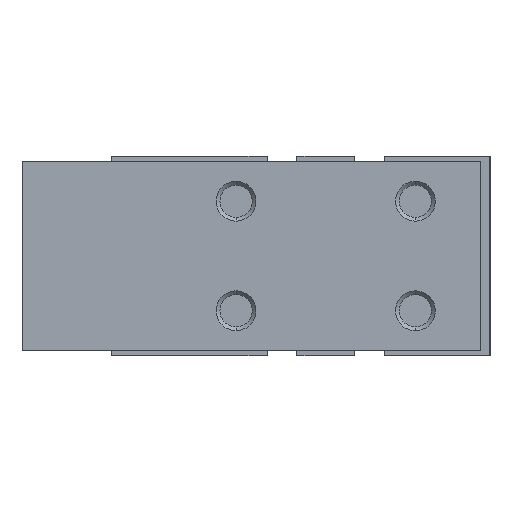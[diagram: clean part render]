
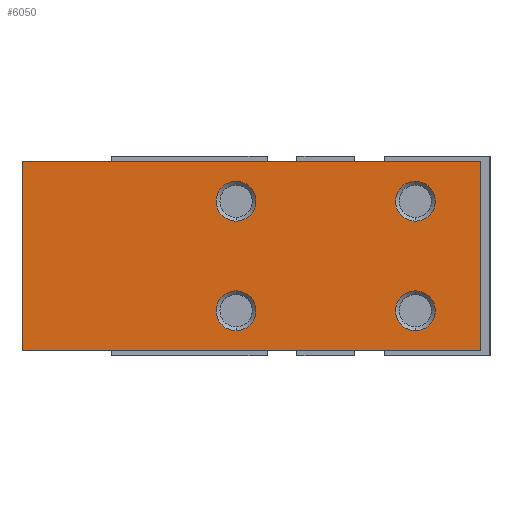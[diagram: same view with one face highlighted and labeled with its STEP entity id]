
A CAD part, left-side view. The second image highlights one B-rep face of the part: STEP entity #6050.
In plain terms, the highlighted planar face has unit normal (-1, 0, 0).
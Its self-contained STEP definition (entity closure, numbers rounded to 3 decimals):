
#63 = ORIENTED_EDGE ( 'NONE', *, *, #3289, .F. ) ;
#157 = LINE ( 'NONE', #5852, #4694 ) ;
#342 = DIRECTION ( 'NONE',  ( 0., 1., 0. ) ) ;
#458 = ORIENTED_EDGE ( 'NONE', *, *, #3309, .T. ) ;
#520 = AXIS2_PLACEMENT_3D ( 'NONE', #4702, #1446, #1320 ) ;
#567 = LINE ( 'NONE', #2479, #4929 ) ;
#707 = CARTESIAN_POINT ( 'NONE',  ( -11.5, -9., -7.5 ) ) ;
#760 = EDGE_LOOP ( 'NONE', ( #2344, #1397 ) ) ;
#846 = FACE_BOUND ( 'NONE', #760, .T. ) ;
#872 = CARTESIAN_POINT ( 'NONE',  ( -11.5, -9., -5.5 ) ) ;
#873 = VERTEX_POINT ( 'NONE', #3340 ) ;
#907 = ORIENTED_EDGE ( 'NONE', *, *, #2384, .F. ) ;
#910 = CIRCLE ( 'NONE', #5001, 2. ) ;
#935 = VERTEX_POINT ( 'NONE', #5333 ) ;
#943 = EDGE_LOOP ( 'NONE', ( #1741, #5286 ) ) ;
#1064 = DIRECTION ( 'NONE',  ( 0., -1., 0. ) ) ;
#1092 = DIRECTION ( 'NONE',  ( -1., 0., 0. ) ) ;
#1109 = DIRECTION ( 'NONE',  ( 0., 0., 1. ) ) ;
#1177 = VERTEX_POINT ( 'NONE', #3821 ) ;
#1212 = FACE_BOUND ( 'NONE', #1713, .T. ) ;
#1279 = FACE_BOUND ( 'NONE', #1590, .T. ) ;
#1309 = AXIS2_PLACEMENT_3D ( 'NONE', #2283, #3138, #342 ) ;
#1315 = DIRECTION ( 'NONE',  ( 0., 0., -1. ) ) ;
#1320 = DIRECTION ( 'NONE',  ( 0., 0., 1. ) ) ;
#1323 = CIRCLE ( 'NONE', #520, 2. ) ;
#1357 = CARTESIAN_POINT ( 'NONE',  ( -11.5, -15.5, 9.5 ) ) ;
#1397 = ORIENTED_EDGE ( 'NONE', *, *, #2212, .F. ) ;
#1446 = DIRECTION ( 'NONE',  ( -1., 0., 0. ) ) ;
#1544 = VERTEX_POINT ( 'NONE', #2583 ) ;
#1590 = EDGE_LOOP ( 'NONE', ( #63, #3193 ) ) ;
#1612 = AXIS2_PLACEMENT_3D ( 'NONE', #3886, #4466, #1974 ) ;
#1656 = DIRECTION ( 'NONE',  ( 0., 0., 1. ) ) ;
#1713 = EDGE_LOOP ( 'NONE', ( #907, #5072 ) ) ;
#1724 = CARTESIAN_POINT ( 'NONE',  ( -11.5, -9., 5.5 ) ) ;
#1741 = ORIENTED_EDGE ( 'NONE', *, *, #1874, .F. ) ;
#1828 = CARTESIAN_POINT ( 'NONE',  ( -11.5, -15.5, -9.5 ) ) ;
#1874 = EDGE_CURVE ( 'NONE', #1177, #6217, #4119, .T. ) ;
#1879 = CARTESIAN_POINT ( 'NONE',  ( -11.5, 9., -7.5 ) ) ;
#1974 = DIRECTION ( 'NONE',  ( 0., 0., 1. ) ) ;
#2212 = EDGE_CURVE ( 'NONE', #2494, #3232, #1323, .T. ) ;
#2283 = CARTESIAN_POINT ( 'NONE',  ( -11.5, 30.5, 9.5 ) ) ;
#2286 = DIRECTION ( 'NONE',  ( 0., 0., 1. ) ) ;
#2341 = EDGE_CURVE ( 'NONE', #5047, #3501, #567, .T. ) ;
#2344 = ORIENTED_EDGE ( 'NONE', *, *, #6058, .F. ) ;
#2353 = CARTESIAN_POINT ( 'NONE',  ( -11.5, -15.5, 9.5 ) ) ;
#2384 = EDGE_CURVE ( 'NONE', #3944, #1544, #6039, .T. ) ;
#2470 = EDGE_CURVE ( 'NONE', #1544, #3944, #4628, .T. ) ;
#2479 = CARTESIAN_POINT ( 'NONE',  ( -11.5, 30.5, -9.5 ) ) ;
#2494 = VERTEX_POINT ( 'NONE', #707 ) ;
#2506 = CIRCLE ( 'NONE', #3905, 2. ) ;
#2519 = VECTOR ( 'NONE', #1315, 1000. ) ;
#2583 = CARTESIAN_POINT ( 'NONE',  ( -11.5, 9., 3.5 ) ) ;
#2660 = CARTESIAN_POINT ( 'NONE',  ( -11.5, 30.5, 9.5 ) ) ;
#2663 = ORIENTED_EDGE ( 'NONE', *, *, #2341, .T. ) ;
#2767 = DIRECTION ( 'NONE',  ( -1., 0., 0. ) ) ;
#3091 = CIRCLE ( 'NONE', #3982, 2. ) ;
#3138 = DIRECTION ( 'NONE',  ( 1., 0., 0. ) ) ;
#3193 = ORIENTED_EDGE ( 'NONE', *, *, #4911, .F. ) ;
#3203 = EDGE_LOOP ( 'NONE', ( #2663, #3912, #3776, #458 ) ) ;
#3204 = LINE ( 'NONE', #2353, #2519 ) ;
#3229 = AXIS2_PLACEMENT_3D ( 'NONE', #3644, #5493, #1109 ) ;
#3232 = VERTEX_POINT ( 'NONE', #4338 ) ;
#3244 = CARTESIAN_POINT ( 'NONE',  ( -11.5, 9., -5.5 ) ) ;
#3289 = EDGE_CURVE ( 'NONE', #935, #5875, #3091, .T. ) ;
#3309 = EDGE_CURVE ( 'NONE', #873, #5047, #157, .T. ) ;
#3332 = CARTESIAN_POINT ( 'NONE',  ( -11.5, 9., 7.5 ) ) ;
#3340 = CARTESIAN_POINT ( 'NONE',  ( -11.5, 30.5, 9.5 ) ) ;
#3342 = AXIS2_PLACEMENT_3D ( 'NONE', #4442, #1092, #4922 ) ;
#3501 = VERTEX_POINT ( 'NONE', #1828 ) ;
#3644 = CARTESIAN_POINT ( 'NONE',  ( -11.5, 9., -5.5 ) ) ;
#3762 = CARTESIAN_POINT ( 'NONE',  ( -11.5, 30.5, -9.5 ) ) ;
#3776 = ORIENTED_EDGE ( 'NONE', *, *, #6085, .F. ) ;
#3819 = AXIS2_PLACEMENT_3D ( 'NONE', #3244, #4669, #2286 ) ;
#3821 = CARTESIAN_POINT ( 'NONE',  ( -11.5, 9., -3.5 ) ) ;
#3886 = CARTESIAN_POINT ( 'NONE',  ( -11.5, 9., 5.5 ) ) ;
#3905 = AXIS2_PLACEMENT_3D ( 'NONE', #1724, #4039, #1656 ) ;
#3912 = ORIENTED_EDGE ( 'NONE', *, *, #5144, .F. ) ;
#3944 = VERTEX_POINT ( 'NONE', #3332 ) ;
#3982 = AXIS2_PLACEMENT_3D ( 'NONE', #4391, #4450, #4897 ) ;
#4039 = DIRECTION ( 'NONE',  ( -1., 0., 0. ) ) ;
#4119 = CIRCLE ( 'NONE', #3229, 2. ) ;
#4191 = DIRECTION ( 'NONE',  ( 0., -1., 0. ) ) ;
#4338 = CARTESIAN_POINT ( 'NONE',  ( -11.5, -9., -3.5 ) ) ;
#4391 = CARTESIAN_POINT ( 'NONE',  ( -11.5, -9., 5.5 ) ) ;
#4442 = CARTESIAN_POINT ( 'NONE',  ( -11.5, 9., 5.5 ) ) ;
#4450 = DIRECTION ( 'NONE',  ( -1., 0., 0. ) ) ;
#4466 = DIRECTION ( 'NONE',  ( -1., 0., 0. ) ) ;
#4508 = DIRECTION ( 'NONE',  ( 0., 0., -1. ) ) ;
#4587 = VERTEX_POINT ( 'NONE', #1357 ) ;
#4628 = CIRCLE ( 'NONE', #3342, 2. ) ;
#4666 = DIRECTION ( 'NONE',  ( 0., 0., 1. ) ) ;
#4669 = DIRECTION ( 'NONE',  ( -1., 0., 0. ) ) ;
#4694 = VECTOR ( 'NONE', #4508, 1000. ) ;
#4702 = CARTESIAN_POINT ( 'NONE',  ( -11.5, -9., -5.5 ) ) ;
#4815 = CIRCLE ( 'NONE', #3819, 2. ) ;
#4897 = DIRECTION ( 'NONE',  ( 0., 0., 1. ) ) ;
#4911 = EDGE_CURVE ( 'NONE', #5875, #935, #2506, .T. ) ;
#4922 = DIRECTION ( 'NONE',  ( 0., 0., 1. ) ) ;
#4929 = VECTOR ( 'NONE', #1064, 1000. ) ;
#5001 = AXIS2_PLACEMENT_3D ( 'NONE', #872, #2767, #4666 ) ;
#5047 = VERTEX_POINT ( 'NONE', #3762 ) ;
#5070 = FACE_OUTER_BOUND ( 'NONE', #3203, .T. ) ;
#5072 = ORIENTED_EDGE ( 'NONE', *, *, #2470, .F. ) ;
#5104 = FACE_BOUND ( 'NONE', #943, .T. ) ;
#5144 = EDGE_CURVE ( 'NONE', #4587, #3501, #3204, .T. ) ;
#5152 = EDGE_CURVE ( 'NONE', #6217, #1177, #4815, .T. ) ;
#5286 = ORIENTED_EDGE ( 'NONE', *, *, #5152, .F. ) ;
#5333 = CARTESIAN_POINT ( 'NONE',  ( -11.5, -9., 7.5 ) ) ;
#5493 = DIRECTION ( 'NONE',  ( -1., 0., 0. ) ) ;
#5852 = CARTESIAN_POINT ( 'NONE',  ( -11.5, 30.5, 9.5 ) ) ;
#5875 = VERTEX_POINT ( 'NONE', #6197 ) ;
#5984 = PLANE ( 'NONE',  #1309 ) ;
#6019 = LINE ( 'NONE', #2660, #6126 ) ;
#6039 = CIRCLE ( 'NONE', #1612, 2. ) ;
#6050 = ADVANCED_FACE ( 'NONE', ( #5070, #5104, #1279, #846, #1212 ), #5984, .F. ) ;
#6058 = EDGE_CURVE ( 'NONE', #3232, #2494, #910, .T. ) ;
#6085 = EDGE_CURVE ( 'NONE', #873, #4587, #6019, .T. ) ;
#6126 = VECTOR ( 'NONE', #4191, 1000. ) ;
#6197 = CARTESIAN_POINT ( 'NONE',  ( -11.5, -9., 3.5 ) ) ;
#6217 = VERTEX_POINT ( 'NONE', #1879 ) ;
